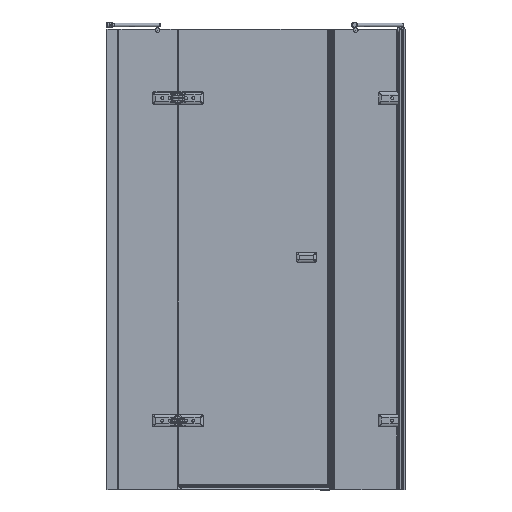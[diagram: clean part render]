
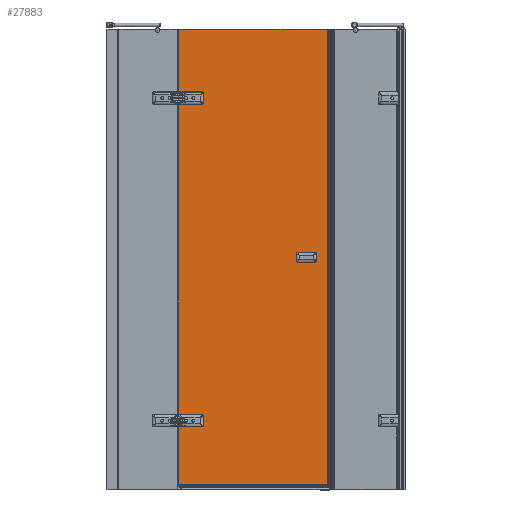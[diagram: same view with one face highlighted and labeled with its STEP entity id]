
A CAD part, left-side view. The second image highlights one B-rep face of the part: STEP entity #27883.
In plain terms, the highlighted planar face has unit normal (-1, 0, 0).
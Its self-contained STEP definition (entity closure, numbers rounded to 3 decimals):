
#1337=LINE($,#58554,#3739);
#1783=LINE($,#60972,#4185);
#1823=LINE($,#61540,#4225);
#2353=LINE($,#63710,#4755);
#2354=LINE($,#63714,#4756);
#2355=LINE($,#63717,#4757);
#2356=LINE($,#63719,#4758);
#2357=LINE($,#63723,#4759);
#2358=LINE($,#63727,#4760);
#2359=LINE($,#63729,#4761);
#2360=LINE($,#63731,#4762);
#2361=LINE($,#63732,#4763);
#3739=VECTOR($,#33733,1362.);
#4185=VECTOR($,#35025,281.);
#4225=VECTOR($,#35175,648.747);
#4755=VECTOR($,#36465,30.747);
#4756=VECTOR($,#36468,18.);
#4757=VECTOR($,#36471,30.747);
#4758=VECTOR($,#36472,30.747);
#4759=VECTOR($,#36475,18.);
#4760=VECTOR($,#36478,30.747);
#4761=VECTOR($,#36479,256.4);
#4762=VECTOR($,#36480,648.747);
#4763=VECTOR($,#36481,1975.4);
#6129=FACE_BOUND($,#8929,.T.);
#6130=FACE_BOUND($,#8930,.T.);
#6131=FACE_BOUND($,#8931,.T.);
#8929=EDGE_LOOP($,(#22544));
#8930=EDGE_LOOP($,(#22545));
#8931=EDGE_LOOP($,(#22546,#22547,#22548,#22549,#22550,#22551,#22552,#22553,
#22554,#22555,#22556,#22557,#22558,#22559,#22560,#22561));
#9684=CIRCLE($,#29112,6.5);
#9844=CIRCLE($,#29533,6.5);
#10071=CIRCLE($,#30163,10.);
#10072=CIRCLE($,#30164,10.);
#10073=CIRCLE($,#30165,10.);
#10074=CIRCLE($,#30166,10.);
#11219=VERTEX_POINT($,#57455);
#11399=VERTEX_POINT($,#58551);
#11400=VERTEX_POINT($,#58553);
#11645=VERTEX_POINT($,#59868);
#11826=VERTEX_POINT($,#60969);
#11827=VERTEX_POINT($,#60971);
#11912=VERTEX_POINT($,#61539);
#12320=VERTEX_POINT($,#63709);
#12321=VERTEX_POINT($,#63711);
#12322=VERTEX_POINT($,#63713);
#12323=VERTEX_POINT($,#63715);
#12324=VERTEX_POINT($,#63718);
#12325=VERTEX_POINT($,#63720);
#12326=VERTEX_POINT($,#63722);
#12327=VERTEX_POINT($,#63724);
#12328=VERTEX_POINT($,#63726);
#12329=VERTEX_POINT($,#63728);
#12330=VERTEX_POINT($,#63730);
#14108=EDGE_CURVE($,#11219,#11219,#9684,.T.);
#14395=EDGE_CURVE($,#11400,#11399,#1337,.T.);
#14784=EDGE_CURVE($,#11645,#11645,#9844,.T.);
#15074=EDGE_CURVE($,#11827,#11826,#1783,.T.);
#15168=EDGE_CURVE($,#11827,#11912,#1823,.T.);
#15841=EDGE_CURVE($,#11826,#12320,#2353,.T.);
#15842=EDGE_CURVE($,#12321,#12320,#10071,.T.);
#15843=EDGE_CURVE($,#12321,#12322,#2354,.T.);
#15844=EDGE_CURVE($,#12323,#12322,#10072,.T.);
#15845=EDGE_CURVE($,#12323,#11400,#2355,.T.);
#15846=EDGE_CURVE($,#11399,#12324,#2356,.T.);
#15847=EDGE_CURVE($,#12325,#12324,#10073,.T.);
#15848=EDGE_CURVE($,#12325,#12326,#2357,.T.);
#15849=EDGE_CURVE($,#12327,#12326,#10074,.T.);
#15850=EDGE_CURVE($,#12327,#12328,#2358,.T.);
#15851=EDGE_CURVE($,#12328,#12329,#2359,.T.);
#15852=EDGE_CURVE($,#12330,#12329,#2360,.T.);
#15853=EDGE_CURVE($,#12330,#11912,#2361,.T.);
#22544=ORIENTED_EDGE($,*,*,#14108,.T.);
#22545=ORIENTED_EDGE($,*,*,#14784,.T.);
#22546=ORIENTED_EDGE($,*,*,#15074,.T.);
#22547=ORIENTED_EDGE($,*,*,#15841,.T.);
#22548=ORIENTED_EDGE($,*,*,#15842,.F.);
#22549=ORIENTED_EDGE($,*,*,#15843,.T.);
#22550=ORIENTED_EDGE($,*,*,#15844,.F.);
#22551=ORIENTED_EDGE($,*,*,#15845,.T.);
#22552=ORIENTED_EDGE($,*,*,#14395,.T.);
#22553=ORIENTED_EDGE($,*,*,#15846,.T.);
#22554=ORIENTED_EDGE($,*,*,#15847,.F.);
#22555=ORIENTED_EDGE($,*,*,#15848,.T.);
#22556=ORIENTED_EDGE($,*,*,#15849,.F.);
#22557=ORIENTED_EDGE($,*,*,#15850,.T.);
#22558=ORIENTED_EDGE($,*,*,#15851,.T.);
#22559=ORIENTED_EDGE($,*,*,#15852,.F.);
#22560=ORIENTED_EDGE($,*,*,#15853,.T.);
#22561=ORIENTED_EDGE($,*,*,#15168,.F.);
#25013=PLANE($,#30162);
#27883=ADVANCED_FACE($,(#6129,#6130,#6131),#25013,.T.);
#29112=AXIS2_PLACEMENT_3D($,#57456,#33167,#33168);
#29533=AXIS2_PLACEMENT_3D($,#59869,#34453,#34454);
#30162=AXIS2_PLACEMENT_3D($,#63708,#36463,#36464);
#30163=AXIS2_PLACEMENT_3D($,#63712,#36466,#36467);
#30164=AXIS2_PLACEMENT_3D($,#63716,#36469,#36470);
#30165=AXIS2_PLACEMENT_3D($,#63721,#36473,#36474);
#30166=AXIS2_PLACEMENT_3D($,#63725,#36476,#36477);
#33167=DIRECTION('center_axis',(1.,0.,0.));
#33168=DIRECTION('ref_axis',(0.,1.,0.));
#33733=DIRECTION($,(0.,0.,-1.));
#34453=DIRECTION('center_axis',(1.,0.,0.));
#34454=DIRECTION('ref_axis',(0.,1.,0.));
#35025=DIRECTION($,(0.,0.,-1.));
#35175=DIRECTION($,(0.,-1.,0.));
#36463=DIRECTION('center_axis',(-1.,0.,0.));
#36464=DIRECTION('ref_axis',(0.,-1.,0.));
#36465=DIRECTION($,(0.,-1.,0.));
#36466=DIRECTION('center_axis',(-1.,0.,0.));
#36467=DIRECTION('ref_axis',(0.,-0.707,0.707));
#36468=DIRECTION($,(0.,0.,-1.));
#36469=DIRECTION('center_axis',(-1.,0.,0.));
#36470=DIRECTION('ref_axis',(0.,-0.707,-0.707));
#36471=DIRECTION($,(0.,1.,0.));
#36472=DIRECTION($,(0.,-1.,0.));
#36473=DIRECTION('center_axis',(-1.,0.,0.));
#36474=DIRECTION('ref_axis',(0.,-0.707,0.707));
#36475=DIRECTION($,(0.,0.,-1.));
#36476=DIRECTION('center_axis',(-1.,0.,0.));
#36477=DIRECTION('ref_axis',(0.,-0.707,-0.707));
#36478=DIRECTION($,(0.,1.,0.));
#36479=DIRECTION($,(0.,0.,-1.));
#36480=DIRECTION($,(0.,1.,0.));
#36481=DIRECTION($,(0.,0.,1.));
#57455=CARTESIAN_POINT('',(1311.447,664.456,-214.056));
#57456=CARTESIAN_POINT('Origin',(1311.447,670.956,-214.056));
#58551=CARTESIAN_POINT('',(1311.447,734.703,-195.056));
#58553=CARTESIAN_POINT('',(1311.447,734.703,1166.944));
#58554=CARTESIAN_POINT($,(1311.447,734.703,1175.944));
#59868=CARTESIAN_POINT('',(1311.447,664.456,1185.944));
#59869=CARTESIAN_POINT('Origin',(1311.447,670.956,1185.944));
#60969=CARTESIAN_POINT('',(1311.447,734.703,1204.944));
#60971=CARTESIAN_POINT('',(1311.447,734.703,1485.944));
#60972=CARTESIAN_POINT($,(1311.447,734.703,1195.944));
#61539=CARTESIAN_POINT('',(1311.447,85.956,1485.944));
#61540=CARTESIAN_POINT($,(1311.447,735.956,1485.944));
#63708=CARTESIAN_POINT('Origin',(1311.447,735.956,-494.056));
#63709=CARTESIAN_POINT('',(1311.447,703.956,1204.944));
#63710=CARTESIAN_POINT($,(1311.447,735.956,1204.944));
#63711=CARTESIAN_POINT('',(1311.447,693.956,1194.944));
#63712=CARTESIAN_POINT('Origin',(1311.447,703.956,1194.944));
#63713=CARTESIAN_POINT('',(1311.447,693.956,1176.944));
#63714=CARTESIAN_POINT($,(1311.447,693.956,355.444));
#63715=CARTESIAN_POINT('',(1311.447,703.956,1166.944));
#63716=CARTESIAN_POINT('Origin',(1311.447,703.956,1176.944));
#63717=CARTESIAN_POINT($,(1311.447,714.956,1166.944));
#63718=CARTESIAN_POINT('',(1311.447,703.956,-195.056));
#63719=CARTESIAN_POINT($,(1311.447,735.956,-195.056));
#63720=CARTESIAN_POINT('',(1311.447,693.956,-205.056));
#63721=CARTESIAN_POINT('Origin',(1311.447,703.956,-205.056));
#63722=CARTESIAN_POINT('',(1311.447,693.956,-223.056));
#63723=CARTESIAN_POINT($,(1311.447,693.956,-344.556));
#63724=CARTESIAN_POINT('',(1311.447,703.956,-233.056));
#63725=CARTESIAN_POINT('Origin',(1311.447,703.956,-223.056));
#63726=CARTESIAN_POINT('',(1311.447,734.703,-233.056));
#63727=CARTESIAN_POINT($,(1311.447,714.956,-233.056));
#63728=CARTESIAN_POINT('',(1311.447,734.703,-489.456));
#63729=CARTESIAN_POINT($,(1311.447,734.703,-514.056));
#63730=CARTESIAN_POINT('',(1311.447,85.956,-489.456));
#63731=CARTESIAN_POINT($,(1311.447,75.956,-489.456));
#63732=CARTESIAN_POINT($,(1311.447,85.956,-494.056));
